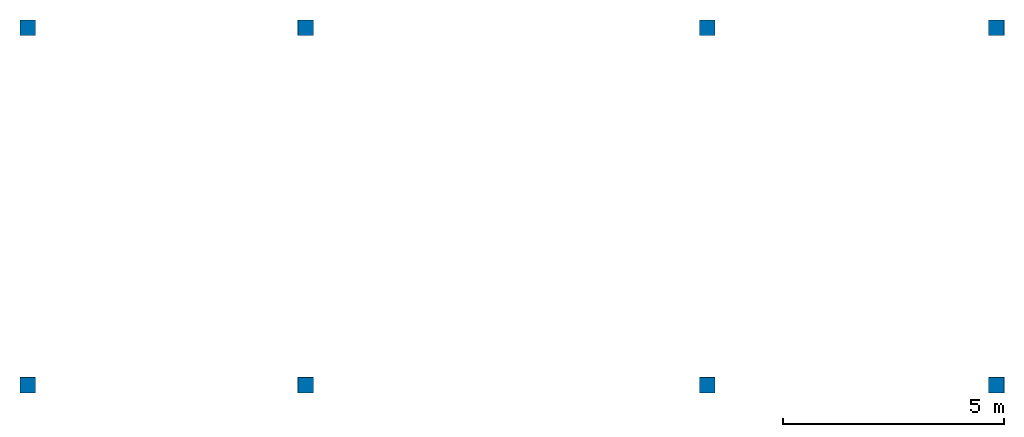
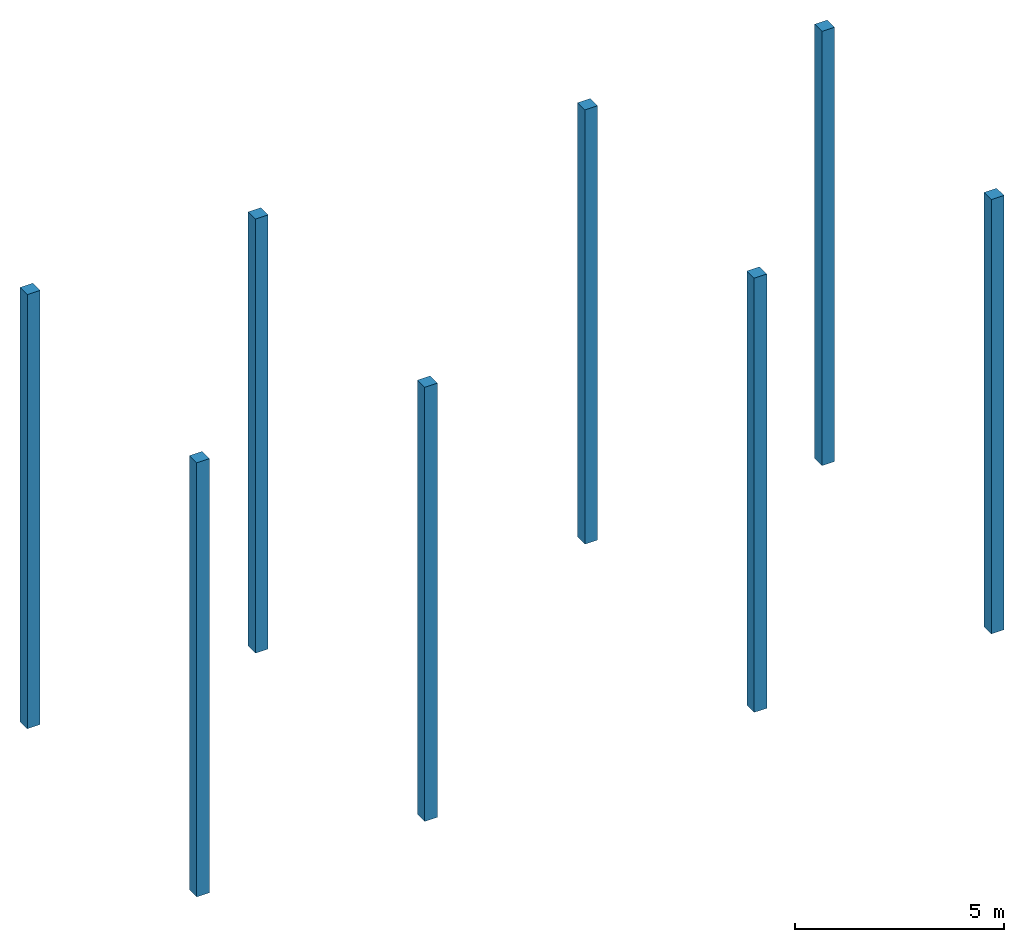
# One storey: 1 column.
"""IFC2X3 building model written with IfcOpenShell, lengths in metres."""

from ifc_helpers import new_model, entity, si_unit, converted_unit, derived_unit, direction, frame, frame_2d, origin, origin_2d_with_axis, place, context, subcontext, project, spatial, rectangle, extrude, source, transform, mapped, type_object, type_shapes, element, save


model = new_model("IFC2X3")

# Units and contexts
model_context = context("Model", 3, precision=1e-05, world=origin(), true_north=direction((6.123031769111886e-17, 1.0)))
body_context = subcontext(model_context, "Body", "Model", "MODEL_VIEW")
ifc_project = project(units=[si_unit("LENGTHUNIT", "METRE"), si_unit("AREAUNIT", "SQUARE_METRE"), si_unit("VOLUMEUNIT", "CUBIC_METRE"), converted_unit("PLANEANGLEUNIT", "DEGREE", entity("IfcRatioMeasure", 0.017453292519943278), si_unit("PLANEANGLEUNIT", "RADIAN"), dimensions=[0, 0, 0, 0, 0, 0, 0]), si_unit("MASSUNIT", "GRAM", prefix="KILO"), derived_unit("MASSDENSITYUNIT", [(si_unit("MASSUNIT", "GRAM", prefix="KILO"), 1), (si_unit("LENGTHUNIT", "METRE"), -3)]), derived_unit("MOMENTOFINERTIAUNIT", [(si_unit("LENGTHUNIT", "METRE"), 4)]), si_unit("TIMEUNIT", "SECOND"), si_unit("FREQUENCYUNIT", "HERTZ"), si_unit("THERMODYNAMICTEMPERATUREUNIT", "DEGREE_CELSIUS"), derived_unit("THERMALTRANSMITTANCEUNIT", [(si_unit("MASSUNIT", "GRAM", prefix="KILO"), 1), (si_unit("THERMODYNAMICTEMPERATUREUNIT", "KELVIN"), -1), (si_unit("TIMEUNIT", "SECOND"), -3)]), derived_unit("VOLUMETRICFLOWRATEUNIT", [(si_unit("LENGTHUNIT", "METRE"), 3), (si_unit("TIMEUNIT", "SECOND"), -1)]), derived_unit("MASSFLOWRATEUNIT", [(si_unit("MASSUNIT", "GRAM", prefix="KILO"), 1), (si_unit("TIMEUNIT", "SECOND"), -1)]), derived_unit("ROTATIONALFREQUENCYUNIT", [(si_unit("TIMEUNIT", "SECOND"), -1)]), si_unit("ELECTRICCURRENTUNIT", "AMPERE"), si_unit("ELECTRICVOLTAGEUNIT", "VOLT"), si_unit("POWERUNIT", "WATT"), si_unit("FORCEUNIT", "NEWTON", prefix="KILO"), si_unit("ILLUMINANCEUNIT", "LUX"), si_unit("LUMINOUSFLUXUNIT", "LUMEN"), si_unit("LUMINOUSINTENSITYUNIT", "CANDELA"), derived_unit("USERDEFINED", [(si_unit("MASSUNIT", "GRAM", prefix="KILO"), -1), (si_unit("LENGTHUNIT", "METRE"), -2), (si_unit("TIMEUNIT", "SECOND"), 3), (si_unit("LUMINOUSFLUXUNIT", "LUMEN"), 1)]), derived_unit("SOUNDPOWERUNIT", [(si_unit("MASSUNIT", "GRAM", prefix="KILO"), 1), (si_unit("LENGTHUNIT", "METRE"), 2), (si_unit("TIMEUNIT", "SECOND"), -3)]), derived_unit("SOUNDPRESSUREUNIT", [(si_unit("MASSUNIT", "GRAM", prefix="KILO"), 1), (si_unit("LENGTHUNIT", "METRE"), -1), (si_unit("TIMEUNIT", "SECOND"), -2)]), derived_unit("LINEARVELOCITYUNIT", [(si_unit("LENGTHUNIT", "METRE"), 1), (si_unit("TIMEUNIT", "SECOND"), -1)]), si_unit("PRESSUREUNIT", "PASCAL"), derived_unit("USERDEFINED", [(si_unit("LENGTHUNIT", "METRE"), -2), (si_unit("MASSUNIT", "GRAM", prefix="KILO"), 1), (si_unit("TIMEUNIT", "SECOND"), -2)]), derived_unit("LINEARFORCEUNIT", [(si_unit("MASSUNIT", "GRAM", prefix="KILO"), 1), (si_unit("LENGTHUNIT", "METRE"), 1), (si_unit("TIMEUNIT", "SECOND"), -2), (si_unit("LENGTHUNIT", "METRE"), -1)]), derived_unit("PLANARFORCEUNIT", [(si_unit("MASSUNIT", "GRAM", prefix="KILO"), 1), (si_unit("LENGTHUNIT", "METRE"), 1), (si_unit("TIMEUNIT", "SECOND"), -2), (si_unit("LENGTHUNIT", "METRE"), -2)])], contexts=[model_context])

# Site, building, storey
site_placement = place(None, origin())
site = spatial("IfcSite", under=ifc_project, at=site_placement, Name="Default", CompositionType="ELEMENT")
building_placement = place(site_placement, origin())
building = spatial("IfcBuilding", under=site, at=building_placement, CompositionType="ELEMENT")
storey_placement = place(building_placement, frame((0.0, 0.0, -2.599999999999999)))
storey = spatial("IfcBuildingStorey", under=building, at=storey_placement, Name="B1-STR", CompositionType="ELEMENT", Elevation=-2.599999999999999)

# Column
column_type = type_object("IfcColumnType", Name="COLUMN:COLUMN", PredefinedType="COLUMN")
shared_shape = source(origin(), body_context, "Body", "SweptSolid", [
    extrude(rectangle(XDim=0.3500000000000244, YDim=0.34999999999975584, at=origin_2d_with_axis()), frame((13.082683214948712, 2.8247074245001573, -2.6000000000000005), z_axis=(0.0, 0.0, 1.0), x_axis=(0.0, -1.0, 0.0)), (0.0, 0.0, 1.0), 12.680000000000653),
    extrude(rectangle(XDim=0.3500000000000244, YDim=0.34999999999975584, at=frame_2d((0.0, 4.3298697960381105e-15), x_axis=(1.0, 0.0))), frame((28.732683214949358, -5.275292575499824, -2.6000000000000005), z_axis=(0.0, 0.0, 1.0), x_axis=(0.0, -1.0, 0.0)), (0.0, 0.0, 1.0), 12.680000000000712),
    extrude(rectangle(XDim=0.3500000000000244, YDim=0.34999999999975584, at=origin_2d_with_axis()), frame((22.182683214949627, -5.275292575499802, -2.6000000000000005), z_axis=(0.0, 0.0, 1.0), x_axis=(0.0, -1.0, 0.0)), (0.0, 0.0, 1.0), 12.68),
    extrude(rectangle(XDim=0.3500000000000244, YDim=0.34999999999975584, at=origin_2d_with_axis()), frame((13.082683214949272, -5.275292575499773, -2.6000000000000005), z_axis=(0.0, 0.0, 1.0), x_axis=(0.0, -1.0, 0.0)), (0.0, 0.0, 1.0), 12.68),
    extrude(rectangle(XDim=0.3500000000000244, YDim=0.34999999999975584, at=origin_2d_with_axis()), frame((6.782683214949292, -5.275292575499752, -2.6000000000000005), z_axis=(0.0, 0.0, 1.0), x_axis=(0.0, -1.0, 0.0)), (0.0, 0.0, 1.0), 12.68),
    extrude(rectangle(XDim=0.3500000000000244, YDim=0.34999999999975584, at=origin_2d_with_axis()), frame((6.7826832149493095, 2.8247074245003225, -2.6000000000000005), z_axis=(0.0, 0.0, 1.0), x_axis=(0.0, -1.0, 0.0)), (0.0, 0.0, 1.0), 12.680000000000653),
    extrude(rectangle(XDim=0.3500000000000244, YDim=0.34999999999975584, at=origin_2d_with_axis()), frame((22.182683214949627, 2.824707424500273, -2.6000000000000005), z_axis=(0.0, 0.0, 1.0), x_axis=(0.0, -1.0, 0.0)), (0.0, 0.0, 1.0), 12.680000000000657),
    extrude(rectangle(XDim=0.3500000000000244, YDim=0.34999999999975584, at=frame_2d((0.0, 4.3298697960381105e-15), x_axis=(1.0, 0.0))), frame((28.732683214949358, 2.8247074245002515, -2.6), z_axis=(0.0, 0.0, 1.0), x_axis=(0.0, -1.0, 0.0)), (0.0, 0.0, 1.0), 12.679999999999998),
])
type_shapes(column_type, [shared_shape])
column_placement = place(storey_placement, frame((0.0, 0.0, 2.599999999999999)))
element("IfcColumn", 1, at=column_placement, inside=storey, type_object=column_type, Name="COLUMN:COLUMN", ObjectType="COLUMN:COLUMN", context=body_context, shape_type="MappedRepresentation", body=[
    mapped(shared_shape, transform((0.0, 0.0, 0.0), scale=1.0)),
])

save(model, "model.ifc")
